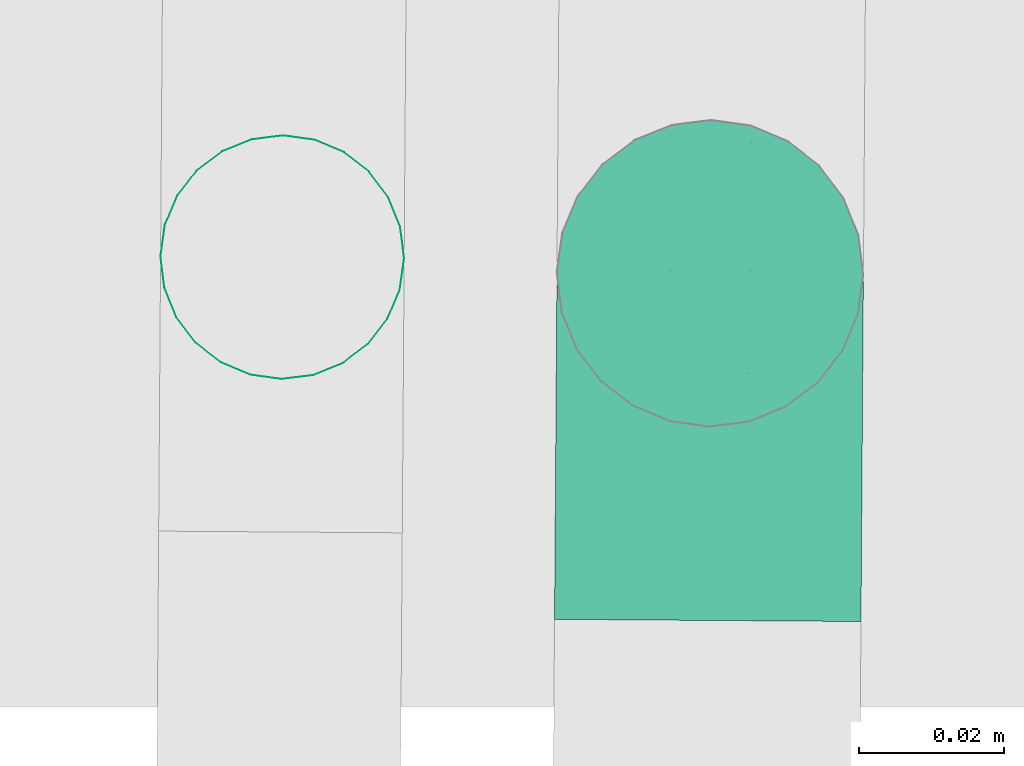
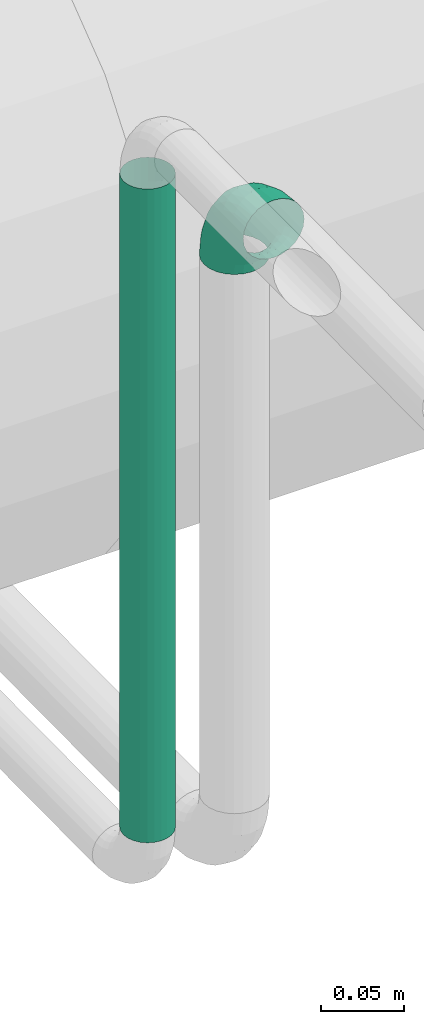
# One storey, part 317 of 374: 2 flow segments.
"""IFC2X3 building model written with IfcOpenShell, lengths in metres."""

import ifcopenshell
import ifcopenshell.guid

model = None  # the IFC model being written
_history = None  # IfcOwnerHistory: only IFC2X3 demands one
_inside = {}  # id of a spatial element -> (the spatial element, [elements in it])
_under = {}  # id of a project, library or spatial element -> (it, [spatial elements below it])
_declared = {}  # id of a project -> (the project, [libraries it declares])
_typed = {}  # id of a type object -> (the type object, [elements of that type])
_made_of = {}  # id of a material, layer set ... -> (it, [elements and type objects made of it])


def new_model(schema):
    """Start an empty IFC model of exactly this schema.

    Asked for "IFC4X3", IfcOpenShell would pick the latest addendum, in which some entities
    have other attributes; the version numbers below select the first issue.
    IFC2X3 requires an IfcOwnerHistory on every rooted entity: one is made here for all.
    """
    global model, _history
    if schema == "IFC4X3":
        model = ifcopenshell.file(schema_version=(4, 3, 0, 0))
    else:
        model = ifcopenshell.file(schema=schema)
    _inside.clear()
    _under.clear()
    _declared.clear()
    _typed.clear()
    _made_of.clear()
    _history = None
    if model.schema == "IFC2X3":
        org = make("IfcOrganization", Name="unknown")
        user = make(
            "IfcPersonAndOrganization",
            ThePerson=make("IfcPerson", FamilyName="unknown"),
            TheOrganization=org,
        )
        app = make(
            "IfcApplication",
            ApplicationDeveloper=org,
            Version="unknown",
            ApplicationFullName="unknown",
            ApplicationIdentifier="unknown",
        )
        _history = make(
            "IfcOwnerHistory",
            OwningUser=user,
            OwningApplication=app,
            ChangeAction="ADDED",
            CreationDate=0,
        )
    return model


def make(cls, **values):
    """One entity of the class cls with the attributes given. An attribute that is None is left unset."""
    return model.create_entity(
        cls, **{name: value for name, value in values.items() if value is not None}
    )


def rooted(cls, **values):
    """An entity with a GlobalId (a new one), such as an element, a storey or a relation."""
    return make(cls, GlobalId=ifcopenshell.guid.new(), OwnerHistory=_history, **values)


def si_unit(unit_type, name, prefix=None):
    """IfcSIUnit, for example si_unit("LENGTHUNIT", "METRE", prefix="MILLI")."""
    return make("IfcSIUnit", UnitType=unit_type, Prefix=prefix, Name=name)


def assignment(units):
    """IfcUnitAssignment: the units of a project."""
    return None if units is None else make("IfcUnitAssignment", Units=units)


def point(xyz):
    """IfcCartesianPoint."""
    return None if xyz is None else make("IfcCartesianPoint", Coordinates=xyz)


def direction(xyz):
    """IfcDirection."""
    return None if xyz is None else make("IfcDirection", DirectionRatios=xyz)


def frame(location, z_axis=None, x_axis=None):
    """IfcAxis2Placement3D, a coordinate frame: its origin and axes. An axis left out is left unset."""
    return make(
        "IfcAxis2Placement3D",
        Location=point(location),
        Axis=direction(z_axis),
        RefDirection=direction(x_axis),
    )


def origin():
    """The frame at (0, 0, 0) with its axes left unset."""
    return frame((0.0, 0.0, 0.0))


def place(relative_to, where):
    """IfcLocalPlacement: puts the frame where relative to a parent placement (None: the world)."""
    return make(
        "IfcLocalPlacement", PlacementRelTo=relative_to, RelativePlacement=where
    )


def context(
    kind, dimensions, precision=None, world=None, true_north=None, identifier=None
):
    """IfcGeometricRepresentationContext, for example the 3D "Model" context."""
    return make(
        "IfcGeometricRepresentationContext",
        ContextIdentifier=identifier,
        ContextType=kind,
        CoordinateSpaceDimension=dimensions,
        Precision=precision,
        WorldCoordinateSystem=world,
        TrueNorth=true_north,
    )


def subcontext(parent, identifier, kind, view, scale=None):
    """IfcGeometricRepresentationSubContext, for example "Body" below "Model"."""
    return make(
        "IfcGeometricRepresentationSubContext",
        ContextIdentifier=identifier,
        ContextType=kind,
        ParentContext=parent,
        TargetScale=scale,
        TargetView=view,
    )


def project(units=None, contexts=None):
    """IfcProject with its units and contexts."""
    return rooted(
        "IfcProject",
        Name="project",
        RepresentationContexts=contexts,
        UnitsInContext=assignment(units),
    )


def spatial(cls, under=None, at=None, **own):
    """A site, building, storey or space (cls), placed at a placement, below another one or the project."""
    s = rooted(cls, ObjectPlacement=at, **own)
    if under is not None:
        _under.setdefault(under.id(), (under, []))[1].append(s)
    return s


def faces_of(points, faces, orient=None, outer=None):
    """IfcFace entities. A face is a list of loops; a loop is a list of indices into points, from 0.

    orient and outer hold one flag for each loop. By default every Orientation is true, the
    first loop of a face is its IfcFaceOuterBound and the others are IfcFaceBound.
    """
    made = []
    for i, loops in enumerate(faces):
        bounds = []
        for j, loop in enumerate(loops):
            is_outer = j == 0 if outer is None else outer[i][j]
            bounds.append(
                make(
                    "IfcFaceOuterBound" if is_outer else "IfcFaceBound",
                    Bound=make("IfcPolyLoop", Polygon=[points[k] for k in loop]),
                    Orientation=True if orient is None else orient[i][j],
                )
            )
        made.append(make("IfcFace", Bounds=bounds))
    return made


def open_shell(faces, orient=None, outer=None):
    """The faces of one IfcOpenShell. surface_model builds it on its shared points."""
    return ("IfcOpenShell", faces, orient, outer)


def surface_model(cls, points, shells):
    """IfcFaceBasedSurfaceModel or IfcShellBasedSurfaceModel (cls): surfaces that need not close."""
    shared = [point(p) for p in points]
    made = [make(c, CfsFaces=faces_of(shared, fs, o, b)) for c, fs, o, b in shells]
    if cls == "IfcFaceBasedSurfaceModel":
        return make(cls, FbsmFaces=made)
    return make(cls, SbsmBoundary=made)


def shape(context_of_items, identifier, shape_type, items):
    """IfcShapeRepresentation: the items that make up one representation, for example the "Body"."""
    return make(
        "IfcShapeRepresentation",
        ContextOfItems=context_of_items,
        RepresentationIdentifier=identifier,
        RepresentationType=shape_type,
        Items=items,
    )


def source(mapping_origin, context_of_items, identifier, shape_type, items):
    """IfcRepresentationMap: a shape defined once, which mapped items show again and again."""
    return make(
        "IfcRepresentationMap",
        MappingOrigin=mapping_origin,
        MappedRepresentation=shape(context_of_items, identifier, shape_type, items),
    )


def transform(
    local_origin,
    x_axis=None,
    y_axis=None,
    z_axis=None,
    scale=None,
    scale2=None,
    scale3=None,
    uniform=True,
):
    """IfcCartesianTransformationOperator3D, or its non-uniform kind. x_axis, y_axis, z_axis: its Axis1, 2, 3."""
    if uniform:
        return make(
            "IfcCartesianTransformationOperator3D",
            Axis1=direction(x_axis),
            Axis2=direction(y_axis),
            LocalOrigin=point(local_origin),
            Scale=scale,
            Axis3=direction(z_axis),
        )
    return make(
        "IfcCartesianTransformationOperator3DnonUniform",
        Axis1=direction(x_axis),
        Axis2=direction(y_axis),
        LocalOrigin=point(local_origin),
        Scale=scale,
        Axis3=direction(z_axis),
        Scale2=scale2,
        Scale3=scale3,
    )


def mapped(mapping_source, mapping_target):
    """IfcMappedItem: shows the shape of a source again, moved by a transform."""
    return make(
        "IfcMappedItem", MappingSource=mapping_source, MappingTarget=mapping_target
    )


def made_of(thing, what):
    """Note that an element or type object is made of a material, layer set ...; save() writes the relation."""
    if what is not None:
        _made_of.setdefault(what.id(), (what, []))[1].append(thing)
    return thing


def element(
    cls,
    number,
    at=None,
    inside=None,
    cuts=None,
    type_object=None,
    material=None,
    context=None,
    identifier="Body",
    shape_type=None,
    held_by="IfcProductDefinitionShape",
    body=None,
    shapes=None,
    **own,
):
    """One element of the class cls, such as IfcWall. Its Tag is "e" and its number.

    at: its placement. inside: the storey or other place that contains it. cuts: it is an
    opening in that element (IfcRelVoidsElement). A single representation is given by context,
    identifier, shape_type and body (its items); several are given by shapes. held_by: the class
    of the entity that holds the representations. save() writes the other relations.
    """
    e = rooted(cls, Tag="e%d" % number, ObjectPlacement=at, **own)
    if body is not None:
        shapes = [shape(context, identifier, shape_type, body)]
    if shapes is not None:
        e.Representation = make(held_by, Representations=shapes)
    if inside is not None:
        _inside.setdefault(inside.id(), (inside, []))[1].append(e)
    if cuts is not None:
        rooted(
            "IfcRelVoidsElement", RelatingBuildingElement=cuts, RelatedOpeningElement=e
        )
    if type_object is not None:
        _typed.setdefault(type_object.id(), (type_object, []))[1].append(e)
    return made_of(e, material)


def aggregate(whole, parts):
    """IfcRelAggregates: a whole, such as a stair, and the parts it consists of."""
    return rooted("IfcRelAggregates", RelatingObject=whole, RelatedObjects=parts)


def save(model, path):
    """Write the relations noted so far, then the file.

    IfcRelAggregates (storeys below a building ...), IfcRelContainedInSpatialStructure (elements
    in a storey), IfcRelDefinesByType, IfcRelAssociatesMaterial and IfcRelDeclares: one each for
    every whole, place, type object, material and project.
    """
    for whole, parts in _under.values():
        aggregate(whole, parts)
    for where, things in _inside.values():
        rooted(
            "IfcRelContainedInSpatialStructure",
            RelatedElements=things,
            RelatingStructure=where,
        )
    for kind, things in _typed.values():
        rooted("IfcRelDefinesByType", RelatedObjects=things, RelatingType=kind)
    for what, things in _made_of.values():
        rooted("IfcRelAssociatesMaterial", RelatedObjects=things, RelatingMaterial=what)
    for by, libraries in _declared.values():
        rooted("IfcRelDeclares", RelatingContext=by, RelatedDefinitions=libraries)
    model.write(path)


model = new_model("IFC2X3")

# Units and contexts
model_context = context("Model", 3, precision=1e-05, world=origin(), true_north=direction((-0.4480736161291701, 0.8939966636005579)))
body_context = subcontext(model_context, "Body", "Model", "MODEL_VIEW")
ifc_project = project(units=[si_unit("LENGTHUNIT", "METRE"), si_unit("AREAUNIT", "SQUARE_METRE"), si_unit("VOLUMEUNIT", "CUBIC_METRE"), si_unit("PLANEANGLEUNIT", "RADIAN"), si_unit("THERMODYNAMICTEMPERATUREUNIT", "KELVIN"), si_unit("MASSUNIT", "GRAM", prefix="KILO"), si_unit("TIMEUNIT", "SECOND")], contexts=[model_context])

# Site, building, storey
site_placement = place(None, origin())
site = spatial("IfcSite", under=ifc_project, at=site_placement, Name="Site 1", CompositionType="ELEMENT")
building_placement = place(site_placement, origin())
building = spatial("IfcBuilding", under=site, at=building_placement, Name="Undefined", CompositionType="ELEMENT")
storey_placement = place(building_placement, origin())
storey = spatial("IfcBuildingStorey", under=building, at=storey_placement, Name="Rez de chauss\x8ee", CompositionType="ELEMENT", Elevation=0.0)

# Flow segments
shared_shape_1 = source(origin(), body_context, "Body", "SurfaceModel", [
    surface_model("IfcFaceBasedSurfaceModel", [(0.01806482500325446, 7.105427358e-15, 0.0), (0.017970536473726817, 0.005533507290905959, 0.0), (9.428852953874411e-05, 0.005533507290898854, 0.0), (0.0, 0.0, 0.0), (-0.017172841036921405, 0.00613233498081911, -0.004587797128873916), (-0.01744928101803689, 0.0006051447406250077, -0.004636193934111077), (-0.03265412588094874, 0.007289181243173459, -0.013450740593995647), (-0.0330938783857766, 0.0017741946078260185, -0.013592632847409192), (-0.045294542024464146, 0.008925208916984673, -0.02598483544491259), (-0.045867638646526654, 0.0034274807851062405, -0.02625895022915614), (-0.054232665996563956, 0.010928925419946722, -0.041335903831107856), (-0.05490005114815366, 0.005452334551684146, -0.04177195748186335), (-0.05885937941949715, 0.013163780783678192, -0.05845779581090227), (-0.059575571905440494, 0.007710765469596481, -0.05907446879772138), (0.01769409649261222, 0.010875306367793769, -0.0014203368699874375), (0.00037072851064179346, 0.010875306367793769, -0.0014203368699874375), (-0.016362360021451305, 0.011455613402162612, -0.005866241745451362), (-0.03136483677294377, 0.012576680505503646, -0.014455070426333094), (-0.04361430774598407, 0.014162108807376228, -0.026601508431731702), (-0.05227599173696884, 0.016103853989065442, -0.0414777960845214), (-0.05675960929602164, 0.018269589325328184, -0.05807013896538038), (0.017254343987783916, 0.015661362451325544, -0.0041642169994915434), (0.0008104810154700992, 0.015661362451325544, -0.004164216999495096), (-0.01507307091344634, 0.016212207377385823, -0.008384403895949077), (-0.029313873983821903, 0.01727635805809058, -0.016537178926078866), (-0.04094144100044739, 0.01878129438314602, -0.02806694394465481), (-0.049163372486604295, 0.02062445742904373, -0.042187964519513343), (-0.05341935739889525, 0.02268023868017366, -0.05793791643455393), (0.016681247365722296, 0.01956551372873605, -0.008044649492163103), (0.001383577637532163, 0.01956551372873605, -0.008044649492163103), (-0.01339283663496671, 0.020077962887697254, -0.011970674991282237), (-0.026641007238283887, 0.021067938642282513, -0.01955517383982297), (-0.03745809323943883, 0.02246797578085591, -0.03028127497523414), (-0.04510692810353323, 0.0241826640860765, -0.04341801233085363), (-0.04906625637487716, 0.026095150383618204, -0.05807013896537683), (0.016013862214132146, 0.022321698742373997, -0.012797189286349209), (0.0020509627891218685, 0.022321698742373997, -0.012797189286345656), (-0.011436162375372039, 0.02278943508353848, -0.016380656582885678), (-0.023528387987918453, 0.02369303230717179, -0.023303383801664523), (-0.03340164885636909, 0.024970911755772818, -0.03309359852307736), (-0.040383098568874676, 0.026535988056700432, -0.04508411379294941), (-0.04399696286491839, 0.028281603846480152, -0.05845779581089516), (0.015297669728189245, 0.023742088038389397, -0.018097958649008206), (0.00276715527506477, 0.023742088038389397, -0.018097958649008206), (-0.009336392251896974, 0.024161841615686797, -0.021313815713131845), (-0.02018813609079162, 0.02497274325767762, -0.0275263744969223), (-0.029048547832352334, 0.02611953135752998, -0.03631225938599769), (-0.03531380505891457, 0.027524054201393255, -0.04707272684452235), (-0.0385569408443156, 0.02909059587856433, -0.05907446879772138), (0.014581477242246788, 0.023729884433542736, -0.02358571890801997), (0.0034833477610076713, 0.023729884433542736, -0.02358571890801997), (-0.007236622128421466, 0.024101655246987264, -0.026433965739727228), (-0.016847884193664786, 0.02481986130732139, -0.03193635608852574), (-0.02469544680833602, 0.02583555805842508, -0.03971791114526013), (-0.0302445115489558, 0.027079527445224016, -0.04924833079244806), (-0.03311691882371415, 0.02846699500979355, -0.059878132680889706), (0.013914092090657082, 0.02228591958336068, -0.02888648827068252), (0.004150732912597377, 0.022285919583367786, -0.028886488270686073), (-0.005279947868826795, 0.022612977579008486, -0.031392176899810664), (-0.013735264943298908, 0.023244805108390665, -0.03623279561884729), (-0.020639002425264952, 0.02413834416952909, -0.04307846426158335), (-0.025520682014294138, 0.025232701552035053, -0.051462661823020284), (-0.028047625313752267, 0.026453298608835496, -0.060814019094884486), (0.013340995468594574, 0.01950859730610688, -0.03363902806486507), (0.0047238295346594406, 0.01950859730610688, -0.033639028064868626), (-0.0035997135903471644, 0.019797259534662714, -0.035850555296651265), (-0.011062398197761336, 0.0203549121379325, -0.04012289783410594), (-0.017155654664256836, 0.021143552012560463, -0.04616490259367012), (-0.02146423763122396, 0.022109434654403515, -0.05356481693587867), (-0.02369452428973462, 0.023186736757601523, -0.06181834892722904), (0.012901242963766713, 0.015587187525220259, -0.037519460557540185), (0.005163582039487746, 0.015587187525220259, -0.03751946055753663), (-0.0023104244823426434, 0.015846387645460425, -0.03950526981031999), (-0.009011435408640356, 0.016347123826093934, -0.043341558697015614), (-0.01448278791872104, 0.017055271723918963, -0.048766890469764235), (-0.018351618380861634, 0.017922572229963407, -0.05541153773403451), (-0.02035427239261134, 0.018889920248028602, -0.06282267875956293), (0.012624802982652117, 0.010788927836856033, -0.040263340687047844), (0.005440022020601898, 0.010788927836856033, -0.0402633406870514), (-0.0014999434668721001, 0.011029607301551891, -0.04210725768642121), (-0.007722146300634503, 0.01149456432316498, -0.045669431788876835), (-0.012802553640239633, 0.012152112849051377, -0.05070710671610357), (-0.0163949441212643, 0.012957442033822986, -0.056876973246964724), (-0.018254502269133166, 0.013855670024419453, -0.06375856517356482), (0.012530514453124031, 0.005440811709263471, -0.041683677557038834), (0.005534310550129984, 0.0054408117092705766, -0.041683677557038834), (-0.0012235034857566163, 0.005675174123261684, -0.04347919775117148), (-0.007282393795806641, 0.006127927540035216, -0.046947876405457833), (-0.012229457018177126, 0.0067682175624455, -0.05185332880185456), (-0.015727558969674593, 0.007552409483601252, -0.05786125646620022), (-0.01753830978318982, 0.008427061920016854, -0.0645622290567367), (0.012624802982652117, -9.269558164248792e-05, -0.04168367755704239), (0.005440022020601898, -9.269558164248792e-05, -0.04168367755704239), (-0.0014999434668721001, 0.00014798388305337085, -0.0435275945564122), (-0.007722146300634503, 0.0006129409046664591, -0.047089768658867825), (-0.012802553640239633, 0.001270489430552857, -0.05212744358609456), (-0.0163949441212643, 0.002075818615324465, -0.058297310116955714), (-0.018254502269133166, 0.0029740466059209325, -0.06517890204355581), (0.012901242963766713, -0.005434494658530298, -0.0402633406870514), (0.005163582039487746, -0.005434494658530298, -0.040263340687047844), (-0.0023104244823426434, -0.005175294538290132, -0.0422491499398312), (-0.009011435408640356, -0.004674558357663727, -0.046085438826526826), (-0.01448278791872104, -0.0039664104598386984, -0.051510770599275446), (-0.018351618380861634, -0.0030991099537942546, -0.05815541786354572), (-0.02035427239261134, -0.0021317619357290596, -0.06556655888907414), (0.013340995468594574, -0.010220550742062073, -0.03751946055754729), (0.0047238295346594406, -0.010220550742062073, -0.03751946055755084), (-0.0035997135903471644, -0.009931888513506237, -0.03973098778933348), (-0.011062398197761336, -0.009374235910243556, -0.04400333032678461), (-0.017155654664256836, -0.00858559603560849, -0.05004533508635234), (-0.02146423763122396, -0.007619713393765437, -0.057445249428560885), (-0.02369452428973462, -0.006542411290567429, -0.06569878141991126), (0.013914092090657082, -0.01412470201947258, -0.03363902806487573), (0.004150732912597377, -0.014124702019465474, -0.033639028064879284), (-0.005279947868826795, -0.013797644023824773, -0.036144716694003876), (-0.013735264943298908, -0.013165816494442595, -0.0409853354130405), (-0.020639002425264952, -0.012272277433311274, -0.04783100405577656), (-0.025520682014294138, -0.011177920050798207, -0.05621520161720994), (-0.028047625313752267, -0.009957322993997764, -0.0655665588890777), (0.014581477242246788, -0.01688088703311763, -0.028886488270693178), (0.0034833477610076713, -0.01688088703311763, -0.028886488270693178), (-0.007236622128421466, -0.016509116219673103, -0.031734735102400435), (-0.016847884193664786, -0.015790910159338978, -0.03723712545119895), (-0.02469544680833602, -0.014775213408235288, -0.04501868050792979), (-0.0302445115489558, -0.01353124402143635, -0.054549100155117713), (-0.03311691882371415, -0.012143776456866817, -0.06517890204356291), (0.015297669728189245, -0.01830127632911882, -0.02358571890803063), (0.00276715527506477, -0.01830127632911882, -0.02358571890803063), (-0.009336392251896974, -0.01788152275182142, -0.026801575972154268), (-0.02018813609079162, -0.017070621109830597, -0.033014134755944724), (-0.029048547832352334, -0.01592383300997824, -0.04180001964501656), (-0.03531380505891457, -0.014519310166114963, -0.05256048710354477), (-0.0385569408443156, -0.012952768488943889, -0.06456222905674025), (0.016013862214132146, -0.01828907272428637, -0.018097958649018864), (0.0020509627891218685, -0.01828907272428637, -0.018097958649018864), (-0.011436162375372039, -0.01782133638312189, -0.021681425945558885), (-0.023528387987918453, -0.016917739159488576, -0.02860415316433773), (-0.03340164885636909, -0.01563985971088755, -0.038394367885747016), (-0.040383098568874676, -0.014074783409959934, -0.05038488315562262), (-0.04399696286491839, -0.012329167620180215, -0.06375856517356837), (0.016681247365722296, -0.01684510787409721, -0.012797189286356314), (0.001383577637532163, -0.01684510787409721, -0.012797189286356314), (-0.01339283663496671, -0.016332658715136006, -0.01672321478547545), (-0.026641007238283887, -0.015342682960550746, -0.02430771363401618), (-0.03745809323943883, -0.01394264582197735, -0.03503381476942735), (-0.04510692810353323, -0.01222795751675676, -0.04817055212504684), (-0.04906625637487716, -0.010315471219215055, -0.06282267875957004), (0.017254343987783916, -0.014067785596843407, -0.008044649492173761), (0.0008104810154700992, -0.014067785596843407, -0.008044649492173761), (-0.01507307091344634, -0.013516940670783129, -0.012264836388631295), (-0.029313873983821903, -0.012452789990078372, -0.020417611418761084), (-0.04094144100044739, -0.010947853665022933, -0.03194737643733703), (-0.049163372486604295, -0.009104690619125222, -0.04606839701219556), (-0.05341935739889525, -0.007048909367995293, -0.06181834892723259), (0.01769409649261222, -0.010146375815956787, -0.004164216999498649), (0.00037072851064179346, -0.010146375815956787, -0.004164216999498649), (-0.016362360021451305, -0.009566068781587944, -0.008610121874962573), (-0.03136483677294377, -0.008445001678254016, -0.017198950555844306), (-0.04361430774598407, -0.006859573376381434, -0.029345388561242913), (-0.05227599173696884, -0.00491782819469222, -0.04422167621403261), (-0.05675960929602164, -0.002752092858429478, -0.060814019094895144), (0.017970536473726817, -0.0053481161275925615, -0.0014203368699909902), (9.428852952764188e-05, -0.005348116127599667, -0.001420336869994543), (-0.017172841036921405, -0.004749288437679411, -0.006008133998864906), (-0.03265412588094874, -0.0035924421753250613, -0.014871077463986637), (-0.045294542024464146, -0.001956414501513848, -0.02740517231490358), (-0.05423266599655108, 4.7302001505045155e-05, -0.042756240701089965), (-0.05885937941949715, 0.002282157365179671, -0.05987813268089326)], [open_shell([[[0, 1, 2, 3]], [[3, 2, 4, 5]], [[5, 4, 6, 7]], [[7, 6, 8, 9]], [[9, 8, 10, 11]], [[11, 10, 12, 13]], [[1, 14, 15, 2]], [[2, 15, 16, 4]], [[4, 16, 17, 6]], [[6, 17, 18, 8]], [[8, 18, 19, 10]], [[10, 19, 20, 12]], [[14, 21, 22, 15]], [[15, 22, 23, 16]], [[16, 23, 24, 17]], [[17, 24, 25, 18]], [[18, 25, 26, 19]], [[19, 26, 27, 20]], [[21, 28, 29, 22]], [[22, 29, 30, 23]], [[23, 30, 31, 24]], [[24, 31, 32, 25]], [[25, 32, 33, 26]], [[26, 33, 34, 27]], [[28, 35, 36, 29]], [[29, 36, 37, 30]], [[30, 37, 38, 31]], [[31, 38, 39, 32]], [[32, 39, 40, 33]], [[33, 40, 41, 34]], [[35, 42, 43, 36]], [[36, 43, 44, 37]], [[37, 44, 45, 38]], [[38, 45, 46, 39]], [[39, 46, 47, 40]], [[40, 47, 48, 41]], [[42, 49, 50, 43]], [[43, 50, 51, 44]], [[44, 51, 52, 45]], [[45, 52, 53, 46]], [[46, 53, 54, 47]], [[47, 54, 55, 48]], [[49, 56, 57, 50]], [[50, 57, 58, 51]], [[51, 58, 59, 52]], [[52, 59, 60, 53]], [[53, 60, 61, 54]], [[54, 61, 62, 55]], [[56, 63, 64, 57]], [[57, 64, 65, 58]], [[58, 65, 66, 59]], [[59, 66, 67, 60]], [[60, 67, 68, 61]], [[61, 68, 69, 62]], [[63, 70, 71, 64]], [[64, 71, 72, 65]], [[65, 72, 73, 66]], [[66, 73, 74, 67]], [[67, 74, 75, 68]], [[68, 75, 76, 69]], [[70, 77, 78, 71]], [[71, 78, 79, 72]], [[72, 79, 80, 73]], [[73, 80, 81, 74]], [[74, 81, 82, 75]], [[75, 82, 83, 76]], [[77, 84, 85, 78]], [[78, 85, 86, 79]], [[79, 86, 87, 80]], [[80, 87, 88, 81]], [[81, 88, 89, 82]], [[82, 89, 90, 83]], [[84, 91, 92, 85]], [[85, 92, 93, 86]], [[86, 93, 94, 87]], [[87, 94, 95, 88]], [[88, 95, 96, 89]], [[89, 96, 97, 90]], [[91, 98, 99, 92]], [[92, 99, 100, 93]], [[93, 100, 101, 94]], [[94, 101, 102, 95]], [[95, 102, 103, 96]], [[96, 103, 104, 97]], [[98, 105, 106, 99]], [[99, 106, 107, 100]], [[100, 107, 108, 101]], [[101, 108, 109, 102]], [[102, 109, 110, 103]], [[103, 110, 111, 104]], [[105, 112, 113, 106]], [[106, 113, 114, 107]], [[107, 114, 115, 108]], [[108, 115, 116, 109]], [[109, 116, 117, 110]], [[110, 117, 118, 111]], [[112, 119, 120, 113]], [[113, 120, 121, 114]], [[114, 121, 122, 115]], [[115, 122, 123, 116]], [[116, 123, 124, 117]], [[117, 124, 125, 118]], [[119, 126, 127, 120]], [[120, 127, 128, 121]], [[121, 128, 129, 122]], [[122, 129, 130, 123]], [[123, 130, 131, 124]], [[124, 131, 132, 125]], [[126, 133, 134, 127]], [[127, 134, 135, 128]], [[128, 135, 136, 129]], [[129, 136, 137, 130]], [[130, 137, 138, 131]], [[131, 138, 139, 132]], [[133, 140, 141, 134]], [[134, 141, 142, 135]], [[135, 142, 143, 136]], [[136, 143, 144, 137]], [[137, 144, 145, 138]], [[138, 145, 146, 139]], [[140, 147, 148, 141]], [[141, 148, 149, 142]], [[142, 149, 150, 143]], [[143, 150, 151, 144]], [[144, 151, 152, 145]], [[145, 152, 153, 146]], [[147, 154, 155, 148]], [[148, 155, 156, 149]], [[149, 156, 157, 150]], [[150, 157, 158, 151]], [[151, 158, 159, 152]], [[152, 159, 160, 153]], [[154, 161, 162, 155]], [[155, 162, 163, 156]], [[156, 163, 164, 157]], [[157, 164, 165, 158]], [[158, 165, 166, 159]], [[159, 166, 167, 160]], [[161, 0, 3, 162]], [[162, 3, 5, 163]], [[163, 5, 7, 164]], [[164, 7, 9, 165]], [[165, 9, 11, 166]], [[166, 11, 13, 167]]])]),
])
flow_segment_1_placement = place(storey_placement, origin())
element("IfcFlowSegment", 1, at=flow_segment_1_placement, inside=storey, Name="Tube coudé", ObjectType="Tube coudé", context=body_context, shape_type="MappedRepresentation", body=[
    mapped(shared_shape_1, transform((52.921758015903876, 17.328550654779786, 4.023982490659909), x_axis=(-0.006921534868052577, -0.9914207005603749, 0.1305261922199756), y_axis=(0.9914466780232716, -0.023815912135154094, -0.12832103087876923), z_axis=(0.13032872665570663, 0.12852158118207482, 0.983105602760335))),
])
shared_shape_2 = source(origin(), body_context, "Body", "SurfaceModel", [
    surface_model("IfcFaceBasedSurfaceModel", [(0.0, 0.004398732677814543, 0.0), (0.0, 0.0, 0.0), (0.48135563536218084, -3.552713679e-15, 0.0), (0.48135563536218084, 0.0043987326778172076, 0.0), (0.0, -0.004248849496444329, -0.00113847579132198), (0.48135563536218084, -0.0042488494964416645, -0.0011384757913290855), (0.0, -0.008058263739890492, -0.003337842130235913), (0.48135563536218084, -0.008058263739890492, -0.003337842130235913), (0.0, -0.01116863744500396, -0.0064482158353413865), (0.48135563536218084, -0.011168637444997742, -0.0064482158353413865), (0.0, -0.013368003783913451, -0.010257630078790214), (0.48135563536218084, -0.013368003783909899, -0.010257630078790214), (0.0, -0.014506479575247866, -0.014506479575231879), (0.48135563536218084, -0.014506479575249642, -0.014506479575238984), (0.0, -0.01450647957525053, -0.01890521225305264), (0.48135563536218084, -0.014506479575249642, -0.018905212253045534), (0.0, -0.013368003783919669, -0.023154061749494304), (0.48135563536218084, -0.013368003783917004, -0.023154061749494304), (0.0, -0.011168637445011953, -0.02696347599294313), (0.48135563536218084, -0.011168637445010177, -0.026963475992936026), (0.0, -0.008058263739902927, -0.03007384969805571), (0.48135563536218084, -0.008058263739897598, -0.030073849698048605), (0.0, -0.004248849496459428, -0.03227321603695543), (0.48135563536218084, -0.004248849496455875, -0.03227321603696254), (0.0, -1.5099033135e-14, -0.03341169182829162), (0.48135563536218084, -1.0658141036e-14, -0.03341169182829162), (0.0, 0.00439873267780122, -0.03341169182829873), (0.48135563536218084, 0.004398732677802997, -0.03341169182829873), (0.0, 0.008647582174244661, -0.03227321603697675), (0.48135563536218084, 0.008647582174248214, -0.03227321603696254), (0.0, 0.012456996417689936, -0.030073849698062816), (0.48135563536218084, 0.012456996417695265, -0.03007384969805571), (0.0, 0.01556737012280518, -0.026963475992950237), (0.48135563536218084, 0.015567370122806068, -0.026963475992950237), (0.0, 0.017766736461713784, -0.023154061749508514), (0.48135563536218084, 0.017766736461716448, -0.023154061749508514), (0.0, 0.018905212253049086, -0.01890521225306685), (0.48135563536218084, 0.01890521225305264, -0.018905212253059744), (0.0, 0.018905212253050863, -0.01450647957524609), (0.48135563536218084, 0.018905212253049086, -0.014506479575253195), (0.0, 0.01776673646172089, -0.01025763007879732), (0.48135563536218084, 0.017766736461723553, -0.01025763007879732), (0.0, 0.015567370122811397, -0.006448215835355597), (0.48135563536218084, 0.015567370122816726, -0.006448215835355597), (0.0, 0.012456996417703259, -0.0033378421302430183), (0.48135563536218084, 0.012456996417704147, -0.0033378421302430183), (0.0, 0.00864758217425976, -0.0011384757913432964), (0.48135563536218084, 0.008647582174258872, -0.001138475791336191)], [open_shell([[[0, 1, 2, 3]], [[1, 4, 5, 2]], [[4, 6, 7, 5]], [[6, 8, 9, 7]], [[8, 10, 11, 9]], [[10, 12, 13, 11]], [[12, 14, 15, 13]], [[14, 16, 17, 15]], [[16, 18, 19, 17]], [[18, 20, 21, 19]], [[20, 22, 23, 21]], [[22, 24, 25, 23]], [[24, 26, 27, 25]], [[26, 28, 29, 27]], [[28, 30, 31, 29]], [[30, 32, 33, 31]], [[32, 34, 35, 33]], [[34, 36, 37, 35]], [[36, 38, 39, 37]], [[38, 40, 41, 39]], [[40, 42, 43, 41]], [[42, 44, 45, 43]], [[44, 46, 47, 45]], [[46, 0, 3, 47]]])]),
])
flow_segment_2_placement = place(storey_placement, origin())
element("IfcFlowSegment", 2, at=flow_segment_2_placement, inside=storey, Name="Tube acier d'après DIN 2448", ObjectType="Tube acier d'après DIN 2448", context=body_context, shape_type="MappedRepresentation", body=[
    mapped(shared_shape_2, transform((52.84647637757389, 17.356632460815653, 3.554954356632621), x_axis=(0.0, 0.0, 1.0), y_axis=(-0.12360147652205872, 0.9923319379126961, 0.0), z_axis=(-0.9923319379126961, -0.12360147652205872, 0.0))),
])

save(model, "model.ifc")
